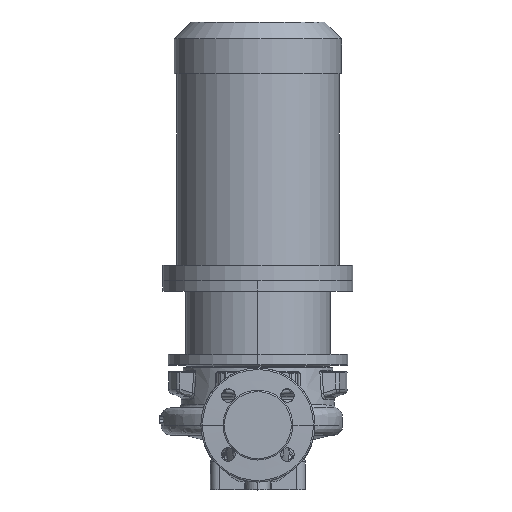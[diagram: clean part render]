
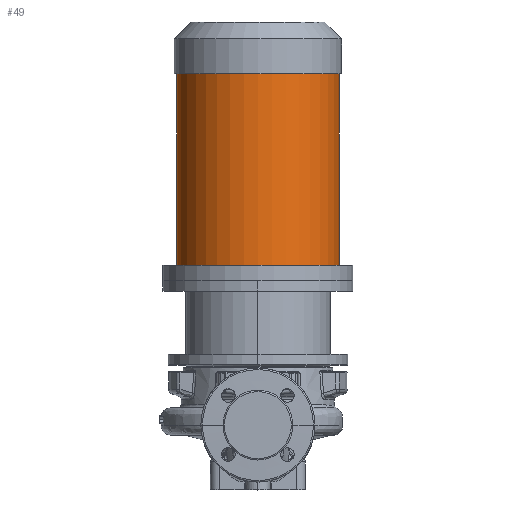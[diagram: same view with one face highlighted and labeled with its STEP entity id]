
A CAD part, top view. The second image highlights one B-rep face of the part: STEP entity #49.
In plain terms, the highlighted cylindrical face has radius 107 mm (diameter 214 mm), a partial arc.
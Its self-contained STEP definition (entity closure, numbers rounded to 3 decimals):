
#49 = ADVANCED_FACE ( 'NONE', ( #10963 ), #54360, .T. ) ;
#920 = VERTEX_POINT ( 'NONE', #42734 ) ;
#1584 = CARTESIAN_POINT ( 'NONE',  ( -107., 210.3, 0. ) ) ;
#7608 = VERTEX_POINT ( 'NONE', #1584 ) ;
#10819 = VERTEX_POINT ( 'NONE', #52847 ) ;
#10963 = FACE_OUTER_BOUND ( 'NONE', #38290, .T. ) ;
#11772 = CARTESIAN_POINT ( 'NONE',  ( 0., 190.3, 0. ) ) ;
#13704 = ORIENTED_EDGE ( 'NONE', *, *, #34378, .T. ) ;
#13995 = CARTESIAN_POINT ( 'NONE',  ( 0., 462.3, 0. ) ) ;
#16147 = DIRECTION ( 'NONE',  ( 0., -1., 0. ) ) ;
#18397 = CIRCLE ( 'NONE', #40378, 107. ) ;
#21415 = LINE ( 'NONE', #54261, #67808 ) ;
#24759 = DIRECTION ( 'NONE',  ( 0., -1., 0. ) ) ;
#25871 = CARTESIAN_POINT ( 'NONE',  ( 0., 210.3, 0. ) ) ;
#27313 = AXIS2_PLACEMENT_3D ( 'NONE', #13995, #27828, #34154 ) ;
#27828 = DIRECTION ( 'NONE',  ( 0., -1., 0. ) ) ;
#30270 = ORIENTED_EDGE ( 'NONE', *, *, #47305, .F. ) ;
#31235 = CARTESIAN_POINT ( 'NONE',  ( -107., 190.3, 0. ) ) ;
#34154 = DIRECTION ( 'NONE',  ( -1., 0., 0. ) ) ;
#34378 = EDGE_CURVE ( 'NONE', #920, #7608, #69349, .T. ) ;
#36311 = VECTOR ( 'NONE', #76218, 1000. ) ;
#38290 = EDGE_LOOP ( 'NONE', ( #43101, #78587, #13704, #30270 ) ) ;
#39101 = DIRECTION ( 'NONE',  ( 0., -1., 0. ) ) ;
#40378 = AXIS2_PLACEMENT_3D ( 'NONE', #25871, #39101, #52111 ) ;
#42734 = CARTESIAN_POINT ( 'NONE',  ( -107., 462.3, 0. ) ) ;
#42895 = CARTESIAN_POINT ( 'NONE',  ( 107., 210.3, 0. ) ) ;
#43101 = ORIENTED_EDGE ( 'NONE', *, *, #49135, .F. ) ;
#44626 = DIRECTION ( 'NONE',  ( -1., 0., 0. ) ) ;
#47305 = EDGE_CURVE ( 'NONE', #56560, #7608, #18397, .T. ) ;
#49135 = EDGE_CURVE ( 'NONE', #10819, #56560, #21415, .T. ) ;
#52111 = DIRECTION ( 'NONE',  ( -1., 0., 0. ) ) ;
#52847 = CARTESIAN_POINT ( 'NONE',  ( 107., 462.3, 0. ) ) ;
#54261 = CARTESIAN_POINT ( 'NONE',  ( 107., 190.3, 0. ) ) ;
#54360 = CYLINDRICAL_SURFACE ( 'NONE', #79120, 107. ) ;
#56560 = VERTEX_POINT ( 'NONE', #42895 ) ;
#59687 = CIRCLE ( 'NONE', #27313, 107. ) ;
#59830 = EDGE_CURVE ( 'NONE', #10819, #920, #59687, .T. ) ;
#67808 = VECTOR ( 'NONE', #16147, 1000. ) ;
#69349 = LINE ( 'NONE', #31235, #36311 ) ;
#76218 = DIRECTION ( 'NONE',  ( 0., -1., 0. ) ) ;
#78587 = ORIENTED_EDGE ( 'NONE', *, *, #59830, .T. ) ;
#79120 = AXIS2_PLACEMENT_3D ( 'NONE', #11772, #24759, #44626 ) ;
